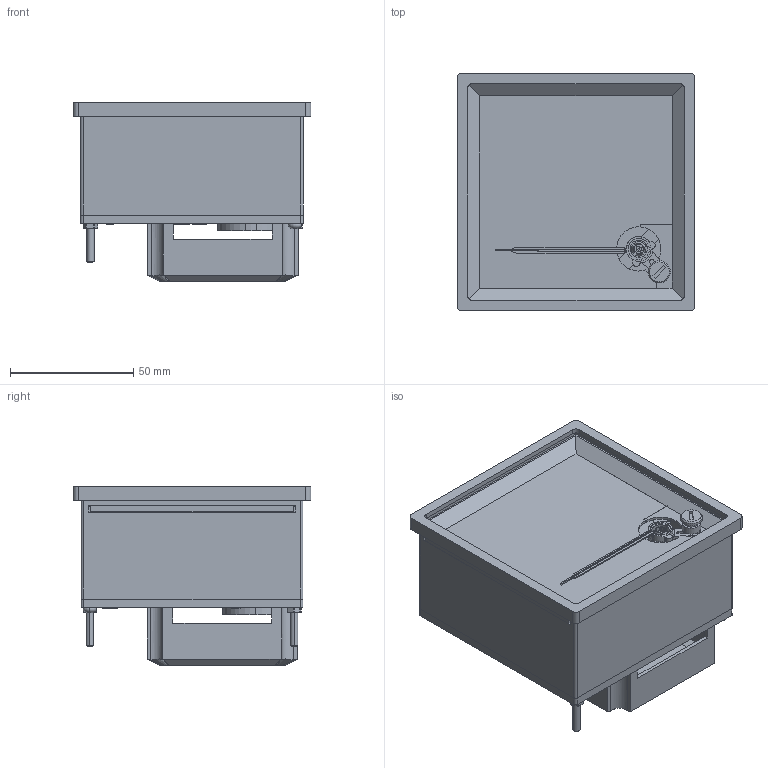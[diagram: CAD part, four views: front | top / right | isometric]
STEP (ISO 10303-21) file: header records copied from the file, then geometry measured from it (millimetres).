
FILE_DESCRIPTION (( 'STEP AP203' ), '1' );
FILE_NAME ('AMP-991 ASTER.STEP', '2019-12-02T21:10:34', ( '' ), ( '' ), 'SwSTEP 2.0', 'SolidWorks 2017', '' );
FILE_SCHEMA (( 'CONFIG_CONTROL_DESIGN' ));
Length unit declared in the file: millimetre
Products named in the file (1): AMP-991 ASTER
Bounding box: 96.5 x 96.5 x 72.5 mm (x, y, z)
Surface area: 63233.5 mm2 (no closed solid volume)
Topology: 0 solids, 17 shells, 452 faces, 1586 edges, 1133 vertices
Faces by surface type: plane 302, cylinder 115, bspline 16, cone 15, torus 4
Entity records: 18268 total; most frequent: CARTESIAN_POINT 5177, ORIENTED_EDGE 2532, DIRECTION 2498, EDGE_CURVE 1586, VERTEX_POINT 1133, VECTOR 1084, LINE 1084, AXIS2_PLACEMENT_3D 707
